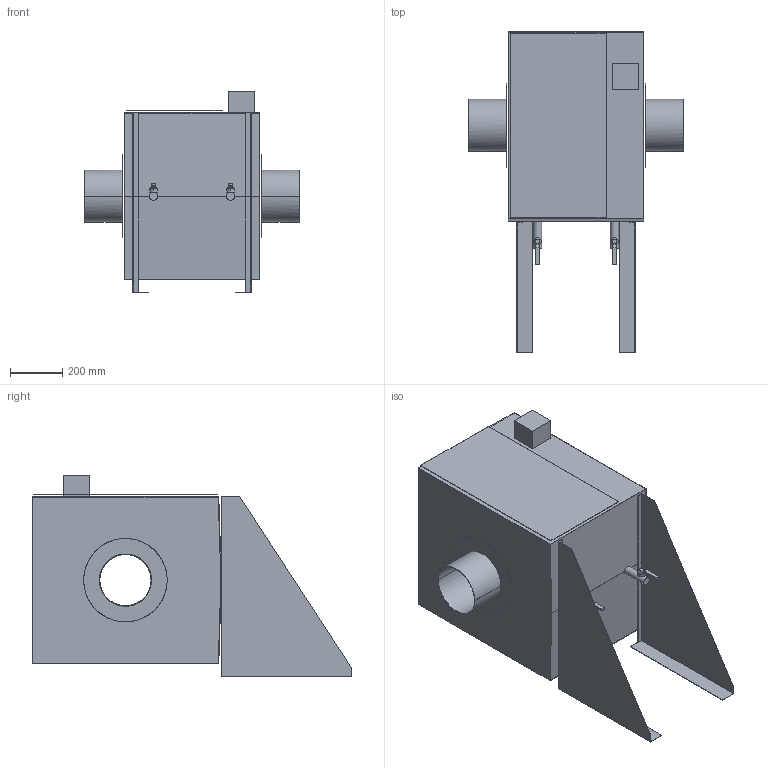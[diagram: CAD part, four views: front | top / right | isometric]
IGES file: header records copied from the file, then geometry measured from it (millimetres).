
Start section:  PTC IGES file: 51577262.igs
Global section: file name: 51577262.igs; native system: Creo Parametric by PTC Inc.; preprocessor: 2019224; author: slc; organization: Unknown; date: 20210122.064203; units: millimetre
Bounding box: 820 x 1225 x 772 mm (x, y, z)
Surface area: 6645765.8 mm2 (no closed solid volume)
Topology: 0 solids, 0 shells, 105 faces, 448 edges, 448 vertices
Faces by surface type: bspline 75, revolution 30
